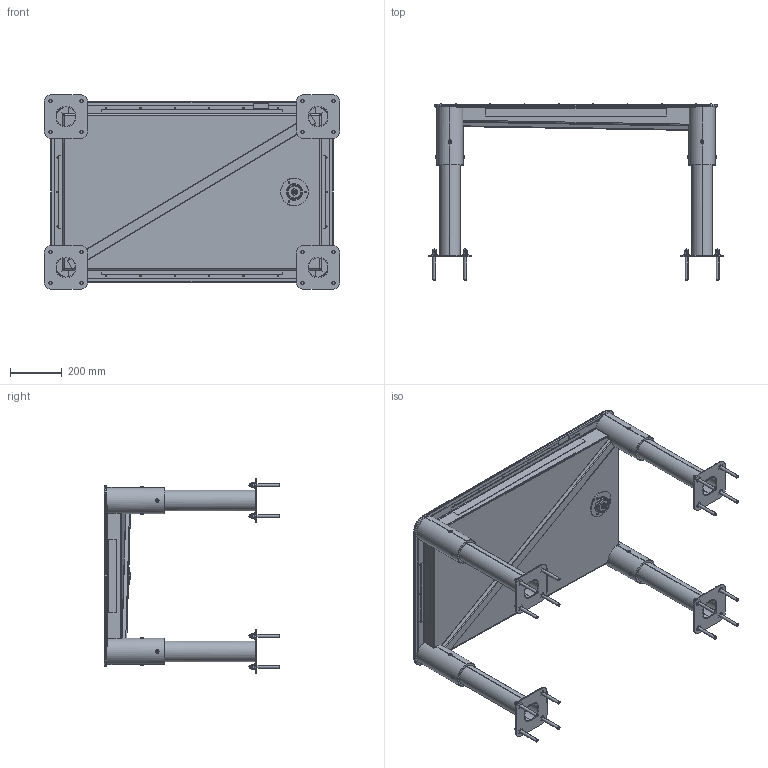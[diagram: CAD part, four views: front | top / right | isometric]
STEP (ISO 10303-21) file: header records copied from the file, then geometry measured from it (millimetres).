
FILE_DESCRIPTION (( 'STEP AP214' ), '1' );
FILE_NAME ('570.202.030.011 - Mud pool 59cm FA.STEP', '2021-03-25T08:22:33', ( '' ), ( '' ), 'SwSTEP 2.0', 'SolidWorks 2018', '' );
FILE_SCHEMA (( 'AUTOMOTIVE_DESIGN' ));
Length unit declared in the file: millimetre
Products named in the file (1): 570.202.030.011 - Mud pool 59cm FA
Bounding box: 1148 x 682.1 x 755 mm (x, y, z)
Surface area: 3946440.4 mm2 (no closed solid volume)
Topology: 0 solids, 183 shells, 1185 faces, 3893 edges, 2705 vertices
Faces by surface type: cylinder 427, plane 363, cone 118, torus 103, bspline 100, sphere 74
Entity records: 62181 total; most frequent: CARTESIAN_POINT 16237, DIRECTION 7214, ORIENTED_EDGE 5901, EDGE_CURVE 3853, AXIS2_PLACEMENT_3D 2882, VERTEX_POINT 2705, CIRCLE 1796, LINE 1450
